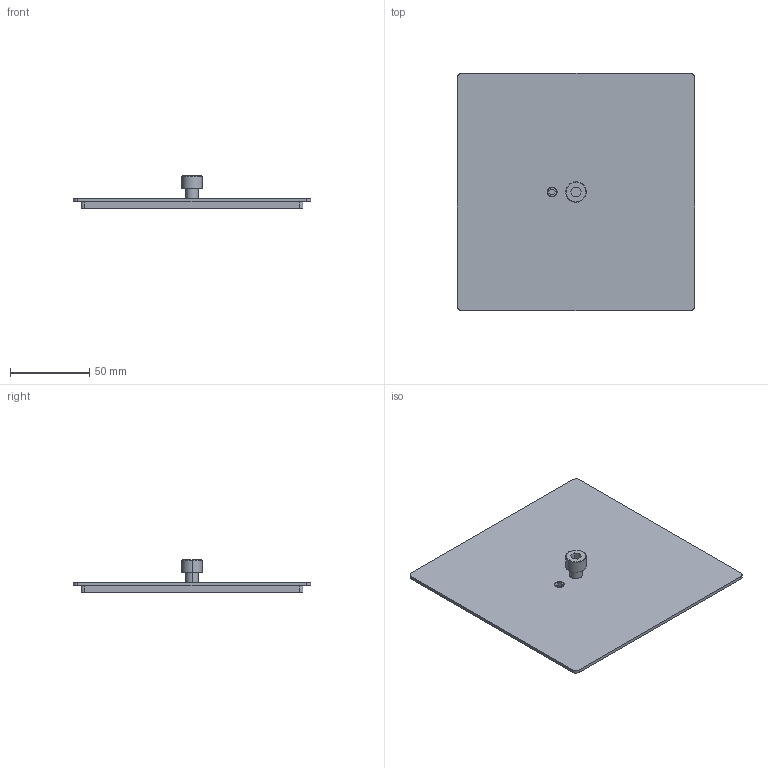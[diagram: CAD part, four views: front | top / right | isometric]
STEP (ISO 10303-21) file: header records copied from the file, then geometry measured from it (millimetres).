
FILE_DESCRIPTION(/* description */ (''),/* implementation_level */ '2;1');
FILE_NAME(/* name */ 'Funivia - Anchor plate',/* time_stamp */ '2022-08-29T17:33:22+02:00',/* author */ (''),/* organization */ (''),/* preprocessor_version */ 'ST-DEVELOPER v16.5',/* originating_system */ 'Rhino 7.17',/* authorisation */ '');
FILE_SCHEMA (('AUTOMOTIVE_DESIGN'));
Length unit declared in the file: millimetre
Products named in the file (1): Document
Bounding box: 150 x 150 x 20.5 mm (x, y, z)
Volume: 123312.3 mm3; surface area: 88691.8 mm2
Topology: 4 solids, 4 shells, 73 faces, 174 edges, 112 vertices
Faces by surface type: plane 31, cylinder 22, bspline 20
Entity records: 2118 total; most frequent: CARTESIAN_POINT 899, ORIENTED_EDGE 348, EDGE_CURVE 174, VERTEX_POINT 112, B_SPLINE_CURVE_WITH_KNOTS 102, EDGE_LOOP 92, ADVANCED_FACE 73, FACE_OUTER_BOUND 73
